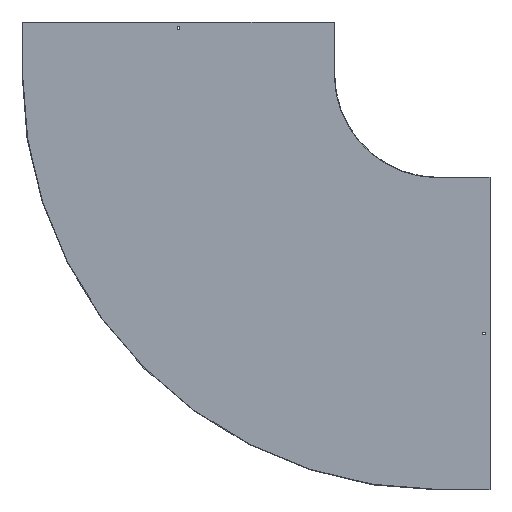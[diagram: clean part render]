
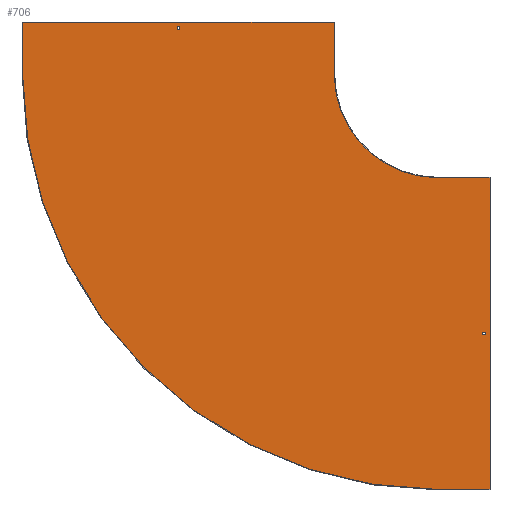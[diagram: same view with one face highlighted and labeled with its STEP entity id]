
A CAD part, front view. The second image highlights one B-rep face of the part: STEP entity #706.
In plain terms, the highlighted planar face has unit normal (0, -1, 0).
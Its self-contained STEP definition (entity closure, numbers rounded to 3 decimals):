
#9 = CARTESIAN_POINT ( 'NONE',  ( 150., -1.5, -1200. ) ) ;
#11 = ORIENTED_EDGE ( 'NONE', *, *, #693, .F. ) ;
#30 = VERTEX_POINT ( 'NONE', #607 ) ;
#31 = EDGE_CURVE ( 'NONE', #481, #767, #730, .T. ) ;
#32 = DIRECTION ( 'NONE',  ( 0., 0., -1. ) ) ;
#39 = VECTOR ( 'NONE', #702, 1000. ) ;
#40 = VERTEX_POINT ( 'NONE', #9 ) ;
#43 = FACE_BOUND ( 'NONE', #778, .T. ) ;
#44 = CARTESIAN_POINT ( 'NONE',  ( 0., -1.5, -300. ) ) ;
#46 = LINE ( 'NONE', #755, #732 ) ;
#62 = VECTOR ( 'NONE', #543, 1000. ) ;
#66 = ORIENTED_EDGE ( 'NONE', *, *, #816, .T. ) ;
#70 = VECTOR ( 'NONE', #344, 1000. ) ;
#91 = VERTEX_POINT ( 'NONE', #542 ) ;
#97 = CARTESIAN_POINT ( 'NONE',  ( -753.25, -1.5, 138. ) ) ;
#112 = CARTESIAN_POINT ( 'NONE',  ( 138., -1.5, 0. ) ) ;
#113 = VERTEX_POINT ( 'NONE', #812 ) ;
#127 = VERTEX_POINT ( 'NONE', #670 ) ;
#129 = LINE ( 'NONE', #237, #675 ) ;
#139 = ORIENTED_EDGE ( 'NONE', *, *, #663, .F. ) ;
#140 = VECTOR ( 'NONE', #628, 1000. ) ;
#153 = VECTOR ( 'NONE', #825, 1000. ) ;
#154 = CARTESIAN_POINT ( 'NONE',  ( -300., -1.5, 150. ) ) ;
#156 = CARTESIAN_POINT ( 'NONE',  ( 150., -1.5, -298.5 ) ) ;
#160 = ORIENTED_EDGE ( 'NONE', *, *, #31, .F. ) ;
#165 = EDGE_CURVE ( 'NONE', #360, #30, #501, .T. ) ;
#177 = VERTEX_POINT ( 'NONE', #770 ) ;
#178 = EDGE_CURVE ( 'NONE', #229, #113, #313, .T. ) ;
#179 = CARTESIAN_POINT ( 'NONE',  ( 0., -1.5, 0. ) ) ;
#185 = DIRECTION ( 'NONE',  ( 0., 0., -1. ) ) ;
#191 = EDGE_LOOP ( 'NONE', ( #305, #773, #66, #348 ) ) ;
#206 = ORIENTED_EDGE ( 'NONE', *, *, #383, .F. ) ;
#220 = VERTEX_POINT ( 'NONE', #272 ) ;
#221 = CARTESIAN_POINT ( 'NONE',  ( 0., -1.5, -300. ) ) ;
#228 = LINE ( 'NONE', #112, #799 ) ;
#229 = VERTEX_POINT ( 'NONE', #477 ) ;
#237 = CARTESIAN_POINT ( 'NONE',  ( -746.75, -1.5, 0. ) ) ;
#246 = CIRCLE ( 'NONE', #579, 300. ) ;
#252 = LINE ( 'NONE', #520, #347 ) ;
#254 = LINE ( 'NONE', #714, #764 ) ;
#261 = VERTEX_POINT ( 'NONE', #534 ) ;
#272 = CARTESIAN_POINT ( 'NONE',  ( -1200., -1.5, 150. ) ) ;
#291 = DIRECTION ( 'NONE',  ( 0., -1., 0. ) ) ;
#295 = CARTESIAN_POINT ( 'NONE',  ( -300., -1.5, 150. ) ) ;
#301 = CARTESIAN_POINT ( 'NONE',  ( 129., -1.5, -753.25 ) ) ;
#305 = ORIENTED_EDGE ( 'NONE', *, *, #463, .T. ) ;
#313 = CIRCLE ( 'NONE', #479, 1200. ) ;
#315 = ORIENTED_EDGE ( 'NONE', *, *, #667, .F. ) ;
#344 = DIRECTION ( 'NONE',  ( 0., 0., -1. ) ) ;
#347 = VECTOR ( 'NONE', #584, 1000. ) ;
#348 = ORIENTED_EDGE ( 'NONE', *, *, #723, .T. ) ;
#350 = DIRECTION ( 'NONE',  ( 1., 0., 0. ) ) ;
#354 = FACE_BOUND ( 'NONE', #191, .T. ) ;
#360 = VERTEX_POINT ( 'NONE', #365 ) ;
#365 = CARTESIAN_POINT ( 'NONE',  ( 138., -1.5, -746.75 ) ) ;
#372 = ORIENTED_EDGE ( 'NONE', *, *, #417, .F. ) ;
#383 = EDGE_CURVE ( 'NONE', #669, #777, #636, .T. ) ;
#387 = VERTEX_POINT ( 'NONE', #301 ) ;
#396 = ORIENTED_EDGE ( 'NONE', *, *, #178, .F. ) ;
#402 = VERTEX_POINT ( 'NONE', #97 ) ;
#407 = VECTOR ( 'NONE', #445, 1000. ) ;
#417 = EDGE_CURVE ( 'NONE', #30, #387, #577, .T. ) ;
#427 = VECTOR ( 'NONE', #350, 1000. ) ;
#436 = EDGE_CURVE ( 'NONE', #777, #40, #471, .T. ) ;
#437 = EDGE_LOOP ( 'NONE', ( #530, #315, #396, #792, #840, #206, #11, #160 ) ) ;
#438 = VECTOR ( 'NONE', #750, 1000. ) ;
#445 = DIRECTION ( 'NONE',  ( 0., 0., -1. ) ) ;
#447 = ORIENTED_EDGE ( 'NONE', *, *, #525, .F. ) ;
#463 = EDGE_CURVE ( 'NONE', #402, #91, #478, .T. ) ;
#471 = LINE ( 'NONE', #156, #438 ) ;
#477 = CARTESIAN_POINT ( 'NONE',  ( 0., -1.5, -1200. ) ) ;
#478 = LINE ( 'NONE', #745, #39 ) ;
#479 = AXIS2_PLACEMENT_3D ( 'NONE', #179, #683, #185 ) ;
#481 = VERTEX_POINT ( 'NONE', #295 ) ;
#483 = CARTESIAN_POINT ( 'NONE',  ( -1200., -1.5, 0. ) ) ;
#501 = LINE ( 'NONE', #620, #140 ) ;
#503 = CARTESIAN_POINT ( 'NONE',  ( 150., -1.5, -300. ) ) ;
#515 = CARTESIAN_POINT ( 'NONE',  ( 129., -1.5, 0. ) ) ;
#520 = CARTESIAN_POINT ( 'NONE',  ( 0., -1.5, 129. ) ) ;
#525 = EDGE_CURVE ( 'NONE', #261, #360, #228, .T. ) ;
#526 = CARTESIAN_POINT ( 'NONE',  ( -1201.5, -1.5, 150. ) ) ;
#529 = EDGE_CURVE ( 'NONE', #40, #229, #46, .T. ) ;
#530 = ORIENTED_EDGE ( 'NONE', *, *, #629, .F. ) ;
#534 = CARTESIAN_POINT ( 'NONE',  ( 138., -1.5, -753.25 ) ) ;
#542 = CARTESIAN_POINT ( 'NONE',  ( -746.75, -1.5, 138. ) ) ;
#543 = DIRECTION ( 'NONE',  ( 0., 0., 1. ) ) ;
#552 = FACE_OUTER_BOUND ( 'NONE', #437, .T. ) ;
#571 = ORIENTED_EDGE ( 'NONE', *, *, #165, .F. ) ;
#577 = LINE ( 'NONE', #515, #407 ) ;
#579 = AXIS2_PLACEMENT_3D ( 'NONE', #630, #684, #635 ) ;
#584 = DIRECTION ( 'NONE',  ( -1., 0., 0. ) ) ;
#607 = CARTESIAN_POINT ( 'NONE',  ( 129., -1.5, -746.75 ) ) ;
#608 = AXIS2_PLACEMENT_3D ( 'NONE', #626, #291, #32 ) ;
#610 = LINE ( 'NONE', #483, #62 ) ;
#613 = CARTESIAN_POINT ( 'NONE',  ( -300., -1.5, 0. ) ) ;
#620 = CARTESIAN_POINT ( 'NONE',  ( 0., -1.5, -746.75 ) ) ;
#626 = CARTESIAN_POINT ( 'NONE',  ( 0., -1.5, 0. ) ) ;
#628 = DIRECTION ( 'NONE',  ( -1., 0., 0. ) ) ;
#629 = EDGE_CURVE ( 'NONE', #220, #481, #716, .T. ) ;
#630 = CARTESIAN_POINT ( 'NONE',  ( 0., -1.5, 0. ) ) ;
#635 = DIRECTION ( 'NONE',  ( 0., 0., -1. ) ) ;
#636 = LINE ( 'NONE', #44, #153 ) ;
#637 = VECTOR ( 'NONE', #802, 1000. ) ;
#638 = DIRECTION ( 'NONE',  ( 0., 0., -1. ) ) ;
#639 = DIRECTION ( 'NONE',  ( -1., 0., 0. ) ) ;
#663 = EDGE_CURVE ( 'NONE', #387, #261, #743, .T. ) ;
#667 = EDGE_CURVE ( 'NONE', #113, #220, #610, .T. ) ;
#669 = VERTEX_POINT ( 'NONE', #221 ) ;
#670 = CARTESIAN_POINT ( 'NONE',  ( -753.25, -1.5, 129. ) ) ;
#671 = CARTESIAN_POINT ( 'NONE',  ( 0., -1.5, -753.25 ) ) ;
#675 = VECTOR ( 'NONE', #638, 1000. ) ;
#683 = DIRECTION ( 'NONE',  ( 0., 1., 0. ) ) ;
#684 = DIRECTION ( 'NONE',  ( 0., -1., 0. ) ) ;
#693 = EDGE_CURVE ( 'NONE', #767, #669, #246, .T. ) ;
#702 = DIRECTION ( 'NONE',  ( 1., 0., 0. ) ) ;
#706 = ADVANCED_FACE ( 'NONE', ( #43, #552, #354 ), #835, .T. ) ;
#707 = DIRECTION ( 'NONE',  ( 0., 0., 1. ) ) ;
#714 = CARTESIAN_POINT ( 'NONE',  ( -753.25, -1.5, 0. ) ) ;
#716 = LINE ( 'NONE', #526, #637 ) ;
#723 = EDGE_CURVE ( 'NONE', #127, #402, #254, .T. ) ;
#730 = LINE ( 'NONE', #154, #70 ) ;
#732 = VECTOR ( 'NONE', #639, 1000. ) ;
#736 = EDGE_CURVE ( 'NONE', #91, #177, #129, .T. ) ;
#743 = LINE ( 'NONE', #671, #427 ) ;
#745 = CARTESIAN_POINT ( 'NONE',  ( 0., -1.5, 138. ) ) ;
#750 = DIRECTION ( 'NONE',  ( 0., 0., -1. ) ) ;
#755 = CARTESIAN_POINT ( 'NONE',  ( 150., -1.5, -1200. ) ) ;
#764 = VECTOR ( 'NONE', #795, 1000. ) ;
#767 = VERTEX_POINT ( 'NONE', #613 ) ;
#770 = CARTESIAN_POINT ( 'NONE',  ( -746.75, -1.5, 129. ) ) ;
#773 = ORIENTED_EDGE ( 'NONE', *, *, #736, .T. ) ;
#777 = VERTEX_POINT ( 'NONE', #503 ) ;
#778 = EDGE_LOOP ( 'NONE', ( #571, #447, #139, #372 ) ) ;
#792 = ORIENTED_EDGE ( 'NONE', *, *, #529, .F. ) ;
#795 = DIRECTION ( 'NONE',  ( 0., 0., 1. ) ) ;
#799 = VECTOR ( 'NONE', #707, 1000. ) ;
#802 = DIRECTION ( 'NONE',  ( 1., 0., 0. ) ) ;
#812 = CARTESIAN_POINT ( 'NONE',  ( -1200., -1.5, 0. ) ) ;
#816 = EDGE_CURVE ( 'NONE', #177, #127, #252, .T. ) ;
#825 = DIRECTION ( 'NONE',  ( 1., 0., 0. ) ) ;
#835 = PLANE ( 'NONE',  #608 ) ;
#840 = ORIENTED_EDGE ( 'NONE', *, *, #436, .F. ) ;
